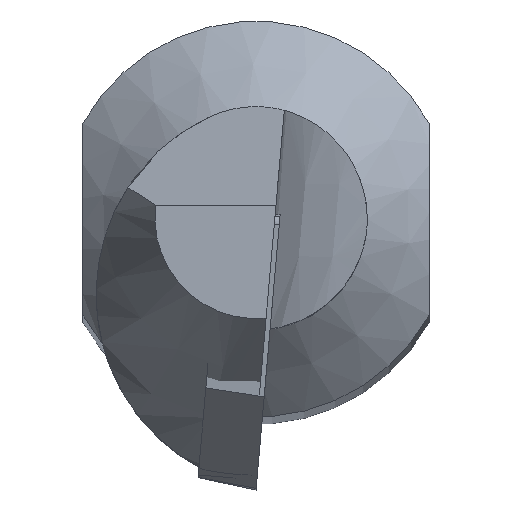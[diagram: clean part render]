
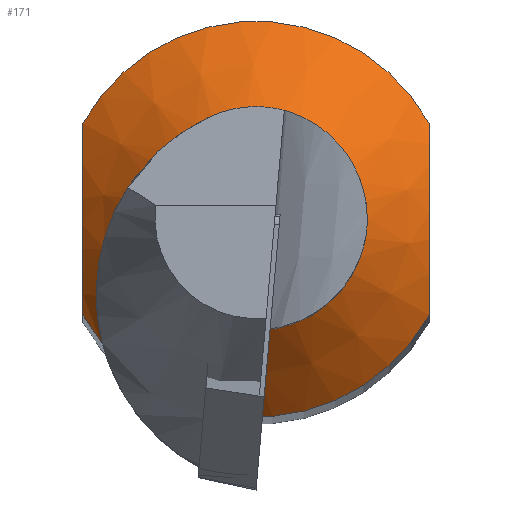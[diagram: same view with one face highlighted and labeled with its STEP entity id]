
A CAD part, top view. The second image highlights one B-rep face of the part: STEP entity #171.
In plain terms, the highlighted conical face has half-angle 45 degrees and reference radius 8 mm.
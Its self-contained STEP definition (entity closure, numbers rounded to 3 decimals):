
#110=B_SPLINE_CURVE_WITH_KNOTS('',3,(#746,#747,#748,#749,#750,#751),
 .UNSPECIFIED.,.F.,.F.,(4,2,4),(0.,0.5,1.),.UNSPECIFIED.);
#111=B_SPLINE_CURVE_WITH_KNOTS('',3,(#755,#756,#757,#758,#759,#760),
 .UNSPECIFIED.,.F.,.F.,(4,2,4),(0.,0.5,1.),.UNSPECIFIED.);
#131=FACE_BOUND('',#229,.T.);
#132=FACE_BOUND('',#230,.T.);
#139=CONICAL_SURFACE('',#507,8.,45.);
#148=CIRCLE('',#493,8.);
#152=CIRCLE('',#504,4.5);
#153=CIRCLE('',#506,8.);
#171=ADVANCED_FACE('',(#131,#132),#139,.T.);
#229=EDGE_LOOP('',(#307));
#230=EDGE_LOOP('',(#308,#309,#310,#311));
#307=ORIENTED_EDGE('',*,*,#417,.F.);
#308=ORIENTED_EDGE('',*,*,#399,.T.);
#309=ORIENTED_EDGE('',*,*,#418,.T.);
#310=ORIENTED_EDGE('',*,*,#419,.T.);
#311=ORIENTED_EDGE('',*,*,#420,.T.);
#358=VERTEX_POINT('',#671);
#359=VERTEX_POINT('',#673);
#371=VERTEX_POINT('',#744);
#372=VERTEX_POINT('',#752);
#373=VERTEX_POINT('',#754);
#399=EDGE_CURVE('',#359,#358,#148,.T.);
#417=EDGE_CURVE('',#371,#371,#152,.T.);
#418=EDGE_CURVE('',#358,#372,#110,.T.);
#419=EDGE_CURVE('',#372,#373,#153,.T.);
#420=EDGE_CURVE('',#373,#359,#111,.T.);
#493=AXIS2_PLACEMENT_3D('',#672,#566,#567);
#504=AXIS2_PLACEMENT_3D('',#743,#594,#595);
#506=AXIS2_PLACEMENT_3D('',#753,#598,#599);
#507=AXIS2_PLACEMENT_3D('',#761,#600,#601);
#566=DIRECTION('',(0.,0.,1.));
#567=DIRECTION('',(1.,0.,0.));
#594=DIRECTION('',(0.,0.,1.));
#595=DIRECTION('',(1.,0.,0.));
#598=DIRECTION('',(0.,0.,1.));
#599=DIRECTION('',(1.,0.,0.));
#600=DIRECTION('',(0.,0.,-1.));
#601=DIRECTION('',(-1.,0.,0.));
#671=CARTESIAN_POINT('',(-7.,3.873,-39.13));
#672=CARTESIAN_POINT('',(0.,0.,-39.13));
#673=CARTESIAN_POINT('',(7.,3.873,-39.13));
#743=CARTESIAN_POINT('',(0.,0.,-35.63));
#744=CARTESIAN_POINT('',(4.5,0.,-35.63));
#746=CARTESIAN_POINT('',(-7.,3.873,-39.13));
#747=CARTESIAN_POINT('',(-7.,2.667,-38.546));
#748=CARTESIAN_POINT('',(-7.,1.337,-38.129));
#749=CARTESIAN_POINT('',(-7.,-1.35,-38.131));
#750=CARTESIAN_POINT('',(-7.,-2.668,-38.546));
#751=CARTESIAN_POINT('',(-7.,-3.873,-39.13));
#752=CARTESIAN_POINT('',(-7.,-3.873,-39.13));
#753=CARTESIAN_POINT('',(0.,0.,-39.13));
#754=CARTESIAN_POINT('',(7.,-3.873,-39.13));
#755=CARTESIAN_POINT('',(7.,-3.873,-39.13));
#756=CARTESIAN_POINT('',(7.,-2.671,-38.548));
#757=CARTESIAN_POINT('',(7.,-1.339,-38.129));
#758=CARTESIAN_POINT('',(7.,1.347,-38.131));
#759=CARTESIAN_POINT('',(7.,2.662,-38.544));
#760=CARTESIAN_POINT('',(7.,3.873,-39.13));
#761=CARTESIAN_POINT('',(0.,0.,-39.13));
